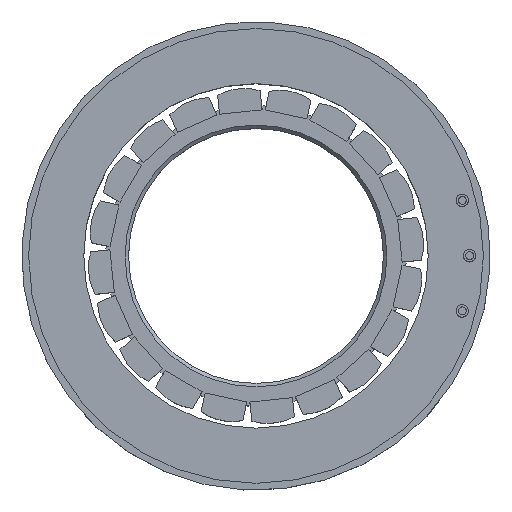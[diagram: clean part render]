
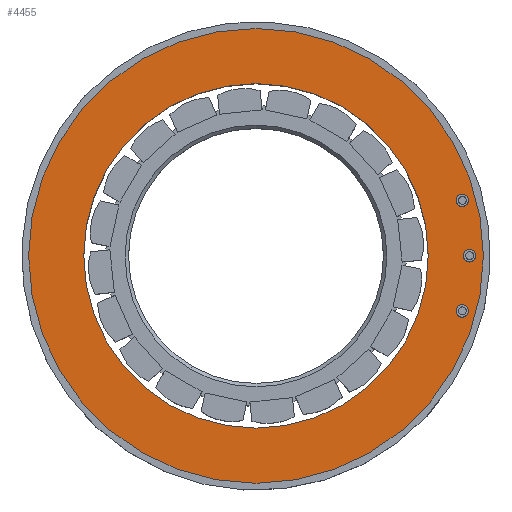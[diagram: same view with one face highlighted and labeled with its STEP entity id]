
A CAD part, top view. The second image highlights one B-rep face of the part: STEP entity #4455.
In plain terms, the highlighted planar face has unit normal (0, 0, 1).
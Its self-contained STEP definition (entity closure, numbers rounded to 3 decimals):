
#42 = DIRECTION ( 'NONE',  ( 0., 0., 1. ) ) ;
#305 = DIRECTION ( 'NONE',  ( 0., 0., 1. ) ) ;
#441 = CARTESIAN_POINT ( 'NONE',  ( 25., 0., 15. ) ) ;
#635 = PLANE ( 'NONE',  #2060 ) ;
#638 = CARTESIAN_POINT ( 'NONE',  ( 0., 0., 15. ) ) ;
#704 = DIRECTION ( 'NONE',  ( 1., 0., 0. ) ) ;
#858 = CIRCLE ( 'NONE', #6682, 33. ) ;
#1094 = EDGE_CURVE ( 'NONE', #7129, #3181, #858, .T. ) ;
#1173 = ORIENTED_EDGE ( 'NONE', *, *, #4649, .T. ) ;
#2060 = AXIS2_PLACEMENT_3D ( 'NONE', #5944, #42, #704 ) ;
#2181 = AXIS2_PLACEMENT_3D ( 'NONE', #4611, #6388, #2876 ) ;
#2222 = ORIENTED_EDGE ( 'NONE', *, *, #1094, .T. ) ;
#2414 = CARTESIAN_POINT ( 'NONE',  ( 33., 0., 15. ) ) ;
#2579 = CIRCLE ( 'NONE', #2950, 25. ) ;
#2876 = DIRECTION ( 'NONE',  ( 1., 0., 0. ) ) ;
#2950 = AXIS2_PLACEMENT_3D ( 'NONE', #3334, #305, #4017 ) ;
#3181 = VERTEX_POINT ( 'NONE', #6844 ) ;
#3334 = CARTESIAN_POINT ( 'NONE',  ( 0., 0., 15. ) ) ;
#3541 = DIRECTION ( 'NONE',  ( 1., 0., 0. ) ) ;
#3581 = EDGE_LOOP ( 'NONE', ( #1173, #2222 ) ) ;
#3619 = FACE_OUTER_BOUND ( 'NONE', #3581, .T. ) ;
#4017 = DIRECTION ( 'NONE',  ( 1., 0., 0. ) ) ;
#4037 = CARTESIAN_POINT ( 'NONE',  ( -25., 0., 15. ) ) ;
#4154 = DIRECTION ( 'NONE',  ( 0., 0., 1. ) ) ;
#4441 = ORIENTED_EDGE ( 'NONE', *, *, #7335, .F. ) ;
#4455 = ADVANCED_FACE ( 'NONE', ( #3619, #5983 ), #635, .T. ) ;
#4611 = CARTESIAN_POINT ( 'NONE',  ( 0., 0., 15. ) ) ;
#4649 = EDGE_CURVE ( 'NONE', #3181, #7129, #5892, .T. ) ;
#4967 = EDGE_LOOP ( 'NONE', ( #4441, #6525 ) ) ;
#5091 = AXIS2_PLACEMENT_3D ( 'NONE', #638, #6486, #3541 ) ;
#5378 = DIRECTION ( 'NONE',  ( 1., 0., 0. ) ) ;
#5666 = EDGE_CURVE ( 'NONE', #6294, #6621, #6316, .T. ) ;
#5892 = CIRCLE ( 'NONE', #2181, 33. ) ;
#5944 = CARTESIAN_POINT ( 'NONE',  ( 0., 0., 15. ) ) ;
#5983 = FACE_BOUND ( 'NONE', #4967, .T. ) ;
#6294 = VERTEX_POINT ( 'NONE', #441 ) ;
#6316 = CIRCLE ( 'NONE', #5091, 25. ) ;
#6388 = DIRECTION ( 'NONE',  ( 0., 0., 1. ) ) ;
#6486 = DIRECTION ( 'NONE',  ( 0., 0., 1. ) ) ;
#6525 = ORIENTED_EDGE ( 'NONE', *, *, #5666, .F. ) ;
#6621 = VERTEX_POINT ( 'NONE', #4037 ) ;
#6682 = AXIS2_PLACEMENT_3D ( 'NONE', #7125, #4154, #5378 ) ;
#6844 = CARTESIAN_POINT ( 'NONE',  ( -33., 0., 15. ) ) ;
#7125 = CARTESIAN_POINT ( 'NONE',  ( 0., 0., 15. ) ) ;
#7129 = VERTEX_POINT ( 'NONE', #2414 ) ;
#7335 = EDGE_CURVE ( 'NONE', #6621, #6294, #2579, .T. ) ;
